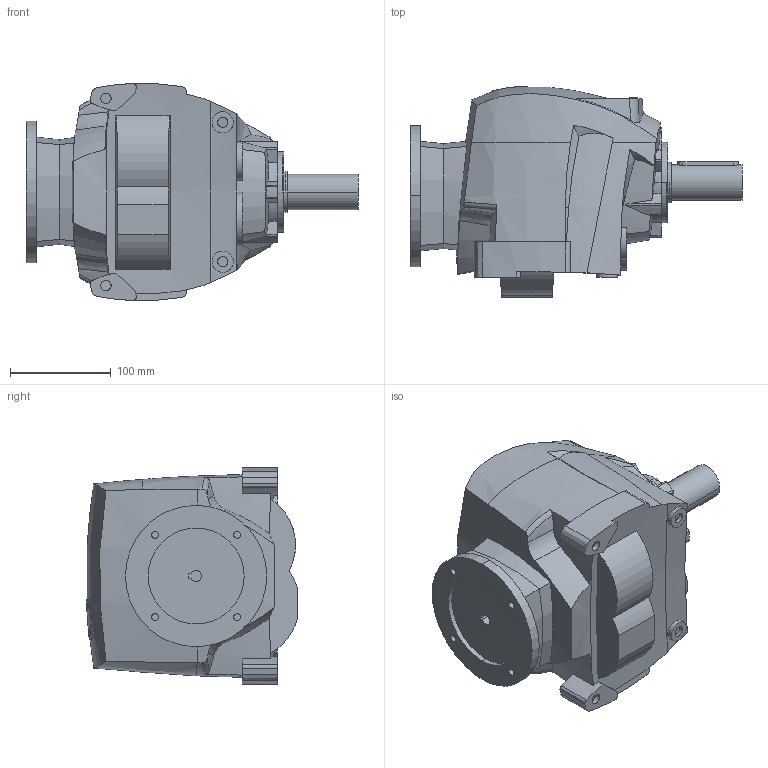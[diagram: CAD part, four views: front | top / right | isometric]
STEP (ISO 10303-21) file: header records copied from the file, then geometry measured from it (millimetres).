
FILE_DESCRIPTION((''),'2;1');
FILE_NAME('R30_UNV_PAM63_D2','2013-11-19T',('Luca'),(''),'PRO/ENGINEER BY PARAMETRIC TECHNOLOGY CORPORATION, 2008230','PRO/ENGINEER BY PARAMETRIC TECHNOLOGY CORPORATION, 2008230','');
FILE_SCHEMA(('CONFIG_CONTROL_DESIGN'));
Length unit declared in the file: millimetre
Products named in the file (1): R30_UNV_PAM63_D2
Bounding box: 329 x 209.27 x 214.87 mm (x, y, z)
Volume: 6290511.3 mm3; surface area: 241120.4 mm2
Topology: 1 solids, 1 shells, 385 faces, 1028 edges, 685 vertices
Faces by surface type: plane 147, cylinder 110, bspline 83, cone 22, extrusion 19, torus 4
Entity records: 16066 total; most frequent: CARTESIAN_POINT 7160, ORIENTED_EDGE 2052, DIRECTION 1462, EDGE_CURVE 1026, VERTEX_POINT 685, VECTOR 488, AXIS2_PLACEMENT_3D 487, LINE 469
